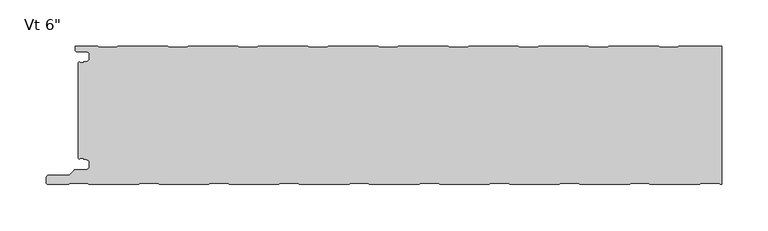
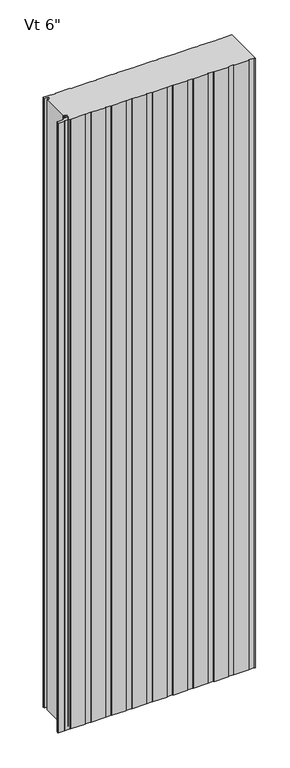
"""IFC4 building model written with IfcOpenShell, lengths in millimetres: plate geometry."""

from ifc_helpers import new_model, si_unit, point, frame_2d, origin, origin_with_axes, place, context, project, spatial, polyline, circle_curve, trimmed, segment, composite_curve, outline, extrude, source, transform, mapped, element, save


def plate_1a11cdb8(model_context):
    return source(origin(), model_context, "Body", "SweptSolid", [
        extrude(outline(composite_curve([segment(polyline([(-347.9683, -124.0760203), (-348.9999998, -123.0443205), (-348.9999998, -19.0328351), (-347.9686882, -18.0015235)]), True, "CONTINUOUS"), segment(trimmed(circle_curve(frame_2d((-346.968691, -18.0015175)), 0.9999972), [point((-347.9686882, -18.0015235))], [point((-346.968691, -19.0015147))], True, "CARTESIAN"), True, "CONTINUOUS"), segment(polyline([(-346.968691, -19.0015147), (-342.9684873, -19.0015147), (-342.9684873, -18.0015202), (-340.2762775, -18.0015202)]), True, "CONTINUOUS"), segment(trimmed(circle_curve(frame_2d((-340.2762775, -14.7015245)), 3.2999957), [point((-340.2762775, -18.0015202))], [point((-336.9762818, -14.7015245))], True, "CARTESIAN"), True, "CONTINUOUS"), segment(polyline([(-336.9762818, -14.7015245), (-336.9762818, -10.3015333)]), True, "CONTINUOUS"), segment(trimmed(circle_curve(frame_2d((-340.2762777, -10.3015333)), 3.2999959), [point((-336.9762818, -10.3015333))], [point((-340.2762777, -7.0015374))], True, "CARTESIAN"), True, "CONTINUOUS"), segment(polyline([(-340.2762777, -7.0015374), (-350.6962562, -7.0015374)]), True, "CONTINUOUS"), segment(trimmed(circle_curve(frame_2d((-350.6962562, -5.2315432)), 1.7699942), [point((-350.6962562, -7.0015374))], [point((-352.4662504, -5.2315432))], False, "CARTESIAN"), True, "CONTINUOUS"), segment(polyline([(-352.4662504, -5.2315432), (-352.4662504, -0.9999959), (-327.9659738, -0.9999959), (-326.5803312, -2.200235), (-307.2051649, -2.200235), (-305.8195319, -1.0000043), (-251.7661165, -1.0000043), (-250.3804836, -2.200235), (-231.0053173, -2.200235), (-229.6196843, -1.0000043), (-175.5662689, -1.0000043), (-174.180636, -2.200235), (-154.8054697, -2.200235), (-153.4198367, -1.0000043), (-99.3664213, -1.0000043), (-97.9807884, -2.200235), (-78.6056221, -2.200235), (-77.2199891, -1.0000043), (-23.1665737, -1.0000043), (-21.7809408, -2.200235), (-2.4057745, -2.200235), (-1.0201415, -1.0000043), (53.0332739, -1.0000043), (54.4189068, -2.200235), (73.7940731, -2.200235), (75.1797061, -1.0000043), (129.2331215, -1.0000043), (130.6187544, -2.200235), (149.9939207, -2.200235), (151.3795537, -1.0000043), (205.4329691, -1.0000043), (206.818602, -2.200235), (226.1937683, -2.200235), (227.5794013, -1.0000043), (281.6328167, -1.0000043), (283.0184496, -2.200235), (302.3936159, -2.200235), (303.7792489, -1.0000043), (350.4999998, -1.0000043), (350.4999998, -151.4051454), (348.445708, -151.4051454), (347.2403362, -150.1997736), (327.5209237, -150.1997736), (326.320693, -151.4000043), (272.2405612, -151.4000043), (271.0403305, -150.1997736), (251.320918, -150.1997736), (250.1206873, -151.4000043), (196.0405555, -151.4000043), (194.8403248, -150.1997736), (175.1209123, -150.1997736), (173.9206816, -151.4000043), (119.8405499, -151.4000043), (118.6403192, -150.1997736), (98.9209066, -150.1997736), (97.7206759, -151.4000043), (43.6405442, -151.4000043), (42.4403135, -150.1997736), (22.720901, -150.1997736), (21.5206703, -151.4000043), (-32.5594615, -151.4000043), (-33.7596922, -150.1997736), (-53.4791047, -150.1997736), (-54.6793354, -151.4000043), (-108.7594672, -151.4000043), (-109.9596979, -150.1997736), (-129.6791104, -150.1997736), (-130.8793411, -151.4000043), (-184.9594729, -151.4000043), (-186.1597036, -150.1997736), (-205.8791161, -150.1997736), (-207.0793468, -151.4000043), (-261.1594786, -151.4000043), (-262.3597093, -150.1997736), (-282.0791218, -150.1997736), (-283.2793525, -151.4000043), (-337.3594843, -151.4000043), (-338.559715, -150.1997736), (-358.2791275, -150.1997736), (-359.479096, -151.3997421), (-381.4521175, -151.3997421)]), True, "CONTINUOUS"), segment(trimmed(circle_curve(frame_2d((-381.4521175, -148.8295028)), 2.5702393), [point((-381.4521175, -151.3997421))], [point((-384.0125697, -148.6054172))], False, "CARTESIAN"), True, "CONTINUOUS"), segment(polyline([(-384.0125697, -148.6054172), (-383.5765707, -143.6235963)]), True, "CONTINUOUS"), segment(trimmed(circle_curve(frame_2d((-380.9198391, -144.1049869)), 2.6999926), [point((-383.5765707, -143.6235963))], [point((-380.9198391, -141.4049943))], False, "CARTESIAN"), True, "CONTINUOUS"), segment(polyline([(-380.9198391, -141.4049943), (-358.8247094, -141.4049943), (-353.3226383, -135.9029232)]), True, "CONTINUOUS"), segment(trimmed(circle_curve(frame_2d((-352.1205606, -137.1050009)), 1.6999946), [point((-353.3226383, -135.9029232))], [point((-352.1205606, -135.4050063))], False, "CARTESIAN"), True, "CONTINUOUS"), segment(polyline([(-352.1205606, -135.4050063), (-340.3096715, -135.4050063)]), True, "CONTINUOUS"), segment(trimmed(circle_curve(frame_2d((-340.3096715, -132.055011)), 3.3499953), [point((-340.3096715, -135.4050063))], [point((-336.9596762, -132.055011))], True, "CARTESIAN"), True, "CONTINUOUS"), segment(polyline([(-336.9596762, -132.055011), (-336.9596762, -127.6550198)]), True, "CONTINUOUS"), segment(trimmed(circle_curve(frame_2d((-340.3096715, -127.6550198)), 3.3499953), [point((-336.9596762, -127.6550198))], [point((-340.3096715, -124.3050245))], True, "CARTESIAN"), True, "CONTINUOUS"), segment(polyline([(-340.3096715, -124.3050245), (-343.0087826, -124.3050245), (-343.0087826, -122.9065456), (-346.767176, -122.9065456)]), True, "CONTINUOUS"), segment(trimmed(circle_curve(frame_2d((-346.7686906, -124.1065423)), 1.1999976), [point((-346.767176, -122.9065456))], [point((-347.9683, -124.0760203))], True, "CARTESIAN"), True, "CONTINUOUS")], self_intersect=False)), origin_with_axes(), (0.0, 0.0, 1.0), 2400.0),
    ])


if __name__ == "__main__":
    model = new_model("IFC4")
    model_context = context("Model", 3, world=origin())
    ifc_project = project(units=[si_unit("LENGTHUNIT", "METRE", prefix="MILLI")], contexts=[model_context])
    site = spatial("IfcSite", under=ifc_project)
    building = spatial("IfcBuilding", under=site)
    placement = place(None, origin())
    plate_shape = plate_1a11cdb8(model_context)
    element("IfcPlate", 1, ObjectType="KIP-30-Karrier-KP-R19-CP-Vt-SL_SL : Vt 6\"", at=placement, inside=building, context=model_context, shape_type="MappedRepresentation", body=[
        mapped(plate_shape, transform((0.0, 0.0, 0.0), x_axis=(1.0, 0.0, 0.0), y_axis=(0.0, 1.0, 0.0), z_axis=(0.0, 0.0, 1.0))),
    ])
    save(model, "model.ifc")
